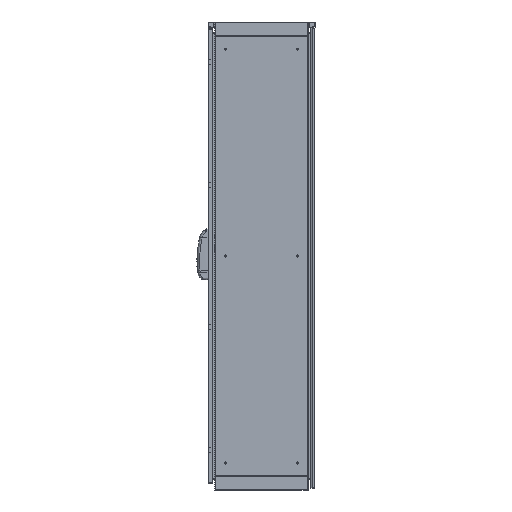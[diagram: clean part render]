
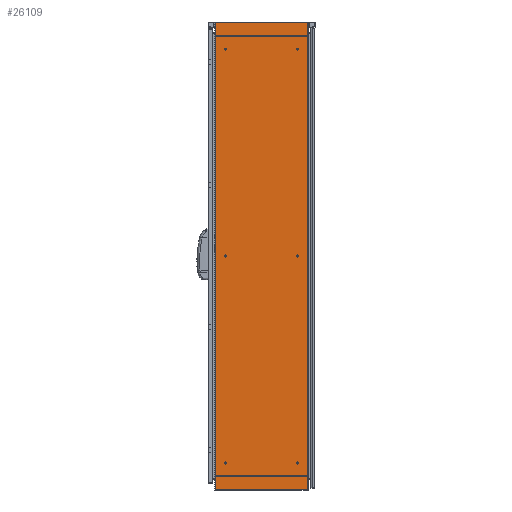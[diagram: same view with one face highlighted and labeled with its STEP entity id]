
A CAD part, left-side view. The second image highlights one B-rep face of the part: STEP entity #26109.
In plain terms, the highlighted planar face has unit normal (-1, 0, 0).
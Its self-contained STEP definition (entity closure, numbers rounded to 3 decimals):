
#5205 = DIRECTION ( 'NONE',  ( 0., -1., 0. ) ) ;
#6080 = VERTEX_POINT ( 'NONE', #6521 ) ;
#6521 = CARTESIAN_POINT ( 'NONE',  ( -300., 179.43, 1809. ) ) ;
#6816 = ORIENTED_EDGE ( 'NONE', *, *, #7583, .T. ) ;
#7583 = EDGE_CURVE ( 'NONE', #52400, #20509, #9164, .T. ) ;
#8544 = DIRECTION ( 'NONE',  ( 0., 0., -1. ) ) ;
#9164 = LINE ( 'NONE', #15872, #47013 ) ;
#9688 = PLANE ( 'NONE',  #31435 ) ;
#11497 = VECTOR ( 'NONE', #8544, 1000. ) ;
#14256 = CARTESIAN_POINT ( 'NONE',  ( -300., -179.43, 1809. ) ) ;
#15435 = ORIENTED_EDGE ( 'NONE', *, *, #41101, .T. ) ;
#15872 = CARTESIAN_POINT ( 'NONE',  ( -300., 183.5, 0. ) ) ;
#20509 = VERTEX_POINT ( 'NONE', #45165 ) ;
#20919 = DIRECTION ( 'NONE',  ( 1., 0., 0. ) ) ;
#21642 = LINE ( 'NONE', #67582, #68895 ) ;
#21654 = DIRECTION ( 'NONE',  ( 0., 0., -1. ) ) ;
#26109 = ADVANCED_FACE ( 'NONE', ( #38845 ), #9688, .F. ) ;
#26536 = CARTESIAN_POINT ( 'NONE',  ( -300., 183.5, 1809. ) ) ;
#30993 = CARTESIAN_POINT ( 'NONE',  ( -300., 179.43, 0. ) ) ;
#31435 = AXIS2_PLACEMENT_3D ( 'NONE', #26536, #20919, #21654 ) ;
#32709 = DIRECTION ( 'NONE',  ( 0., -1., 0. ) ) ;
#35859 = LINE ( 'NONE', #42932, #11497 ) ;
#37469 = DIRECTION ( 'NONE',  ( 0., 0., 1. ) ) ;
#38845 = FACE_OUTER_BOUND ( 'NONE', #50019, .T. ) ;
#40017 = EDGE_CURVE ( 'NONE', #6080, #52400, #35859, .T. ) ;
#41101 = EDGE_CURVE ( 'NONE', #20509, #65501, #48651, .T. ) ;
#41738 = EDGE_CURVE ( 'NONE', #6080, #65501, #21642, .T. ) ;
#42932 = CARTESIAN_POINT ( 'NONE',  ( -300., 179.43, 1809. ) ) ;
#45165 = CARTESIAN_POINT ( 'NONE',  ( -300., -179.43, 0. ) ) ;
#47013 = VECTOR ( 'NONE', #32709, 1000. ) ;
#48651 = LINE ( 'NONE', #14256, #60574 ) ;
#50019 = EDGE_LOOP ( 'NONE', ( #6816, #15435, #64761, #62035 ) ) ;
#52400 = VERTEX_POINT ( 'NONE', #30993 ) ;
#60574 = VECTOR ( 'NONE', #37469, 1000. ) ;
#61843 = CARTESIAN_POINT ( 'NONE',  ( -300., -179.43, 1809. ) ) ;
#62035 = ORIENTED_EDGE ( 'NONE', *, *, #40017, .T. ) ;
#64761 = ORIENTED_EDGE ( 'NONE', *, *, #41738, .F. ) ;
#65501 = VERTEX_POINT ( 'NONE', #61843 ) ;
#67582 = CARTESIAN_POINT ( 'NONE',  ( -300., 183.5, 1809. ) ) ;
#68895 = VECTOR ( 'NONE', #5205, 1000. ) ;
